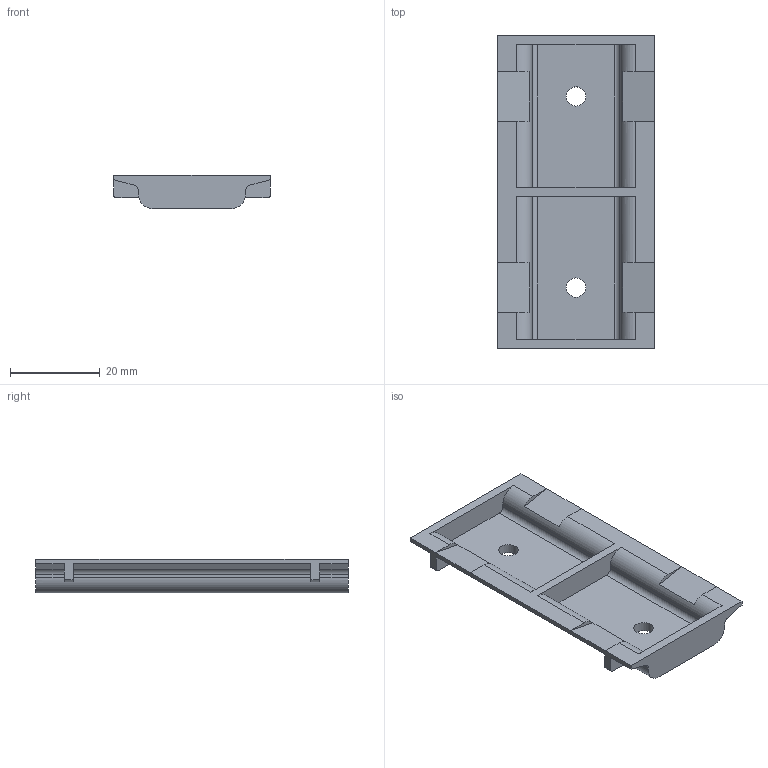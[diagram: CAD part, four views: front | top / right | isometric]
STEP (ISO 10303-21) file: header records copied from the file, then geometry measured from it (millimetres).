
FILE_DESCRIPTION( ( 'Unknown' ), '1' );
FILE_NAME( 'J:/DESBAKUP/3D DATA/MK-060PSL/ASSEMBLIES/3D OUTPUT & IMAGES/MK-060PSL.stp', 'Unknown', ( 'Unknown' ), ( 'Unknown' ), 'PSStep 14.0', 'Unknown', ' ' );
FILE_SCHEMA( ( 'AUTOMOTIVE_DESIGN { 1 0 10303 214 1 1 1 1 }' ) );
Length unit declared in the file: millimetre
Products named in the file (1): 1
Bounding box: 35 x 69.7 x 7.5 mm (x, y, z)
Volume: 6574.1 mm3; surface area: 6921.8 mm2
Topology: 1 solids, 1 shells, 76 faces, 214 edges, 140 vertices
Faces by surface type: plane 54, cylinder 22
Full cylindrical faces by diameter (mm): 4.3 x2
Entity records: 3076 total; most frequent: CARTESIAN_POINT 429, DIRECTION 426, ORIENTED_EDGE 424, EDGE_CURVE 212, LINE 152, VECTOR 152, VERTEX_POINT 140, AXIS2_PLACEMENT_3D 137
